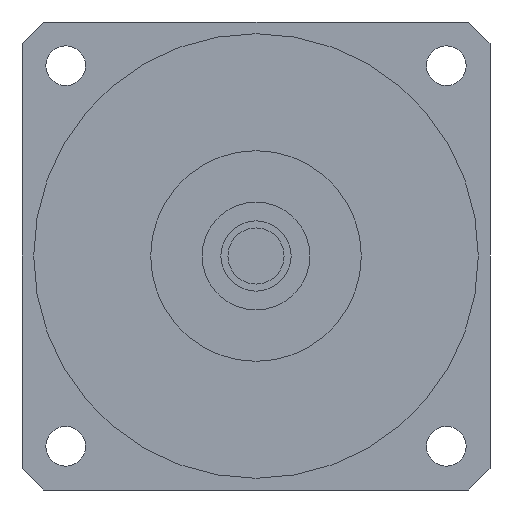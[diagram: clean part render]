
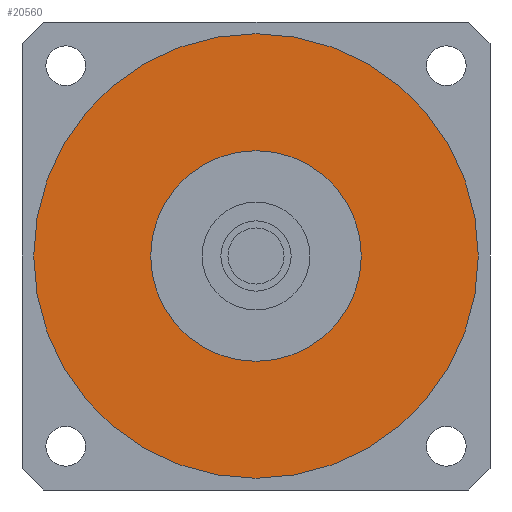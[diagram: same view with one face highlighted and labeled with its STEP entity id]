
A CAD part, left-side view. The second image highlights one B-rep face of the part: STEP entity #20560.
In plain terms, the highlighted planar face has unit normal (-1, 0, 0) as drawn and (0, 0, -1) by its records, which use the part's own axes.
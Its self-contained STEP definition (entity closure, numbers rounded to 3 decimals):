
#19980=CARTESIAN_POINT('',(47.5,0.,-38.5));
#19990=VERTEX_POINT('',#19980);
#20080=CARTESIAN_POINT('',(-47.5,0.,-38.5));
#20090=VERTEX_POINT('',#20080);
#20120=CARTESIAN_POINT('',(0.,0.,
-38.5));
#20130=DIRECTION('',(0.,0.,1.));
#20140=DIRECTION('',(0.,1.,0.));
#20150=AXIS2_PLACEMENT_3D('',#20120,#20130,#20140);
#20160=CIRCLE('',#20150,47.5);
#20170=CARTESIAN_POINT('',(0.,47.5,-38.5));
#20180=VERTEX_POINT('',#20170);
#20190=EDGE_CURVE('',#20180,#20090,#20160,.T.);
#20210=EDGE_CURVE('',#19990,#20180,#20160,.T.);
#20260=CARTESIAN_POINT('',(0.,0.,
-38.5));
#20270=DIRECTION('',(0.,0.,1.));
#20280=DIRECTION('',(-1.,0.,0.));
#20290=AXIS2_PLACEMENT_3D('',#20260,#20270,#20280);
#20300=PLANE('',#20290);
#20310=ORIENTED_EDGE('',*,*,#20190,.F.);
#20320=EDGE_CURVE('',#20090,#19990,#20160,.T.);
#20330=ORIENTED_EDGE('',*,*,#20320,.F.);
#20340=ORIENTED_EDGE('',*,*,#20210,.F.);
#20350=EDGE_LOOP('',(#20340,#20330,#20310));
#20360=FACE_OUTER_BOUND('',#20350,.T.);
#20370=CARTESIAN_POINT('',(0.,0.,
-38.5));
#20380=DIRECTION('',(0.,0.,1.));
#20390=DIRECTION('',(0.,1.,0.));
#20400=AXIS2_PLACEMENT_3D('',#20370,#20380,#20390);
#20410=CIRCLE('',#20400,22.5);
#20420=CARTESIAN_POINT('',(-22.5,0.,-38.5));
#20430=VERTEX_POINT('',#20420);
#20440=CARTESIAN_POINT('',(22.5,0.,-38.5));
#20450=VERTEX_POINT('',#20440);
#20460=EDGE_CURVE('',#20430,#20450,#20410,.T.);
#20470=ORIENTED_EDGE('',*,*,#20460,.T.);
#20480=CARTESIAN_POINT('',(0.,22.5,-38.5));
#20490=VERTEX_POINT('',#20480);
#20500=EDGE_CURVE('',#20490,#20430,#20410,.T.);
#20510=ORIENTED_EDGE('',*,*,#20500,.T.);
#20520=EDGE_CURVE('',#20450,#20490,#20410,.T.);
#20530=ORIENTED_EDGE('',*,*,#20520,.T.);
#20540=EDGE_LOOP('',(#20530,#20510,#20470));
#20550=FACE_BOUND('',#20540,.T.);
#20560=ADVANCED_FACE('',(#20360,#20550),#20300,.F.);
